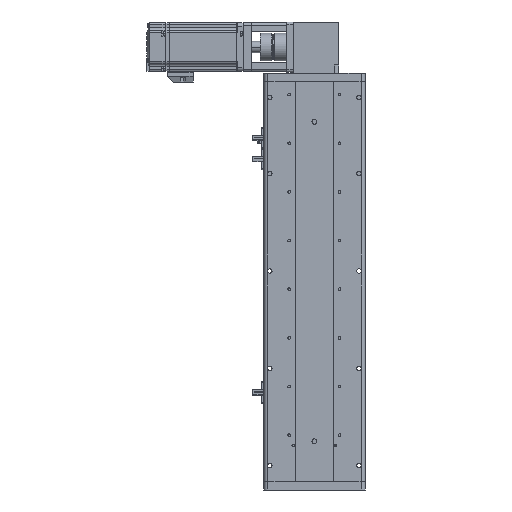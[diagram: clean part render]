
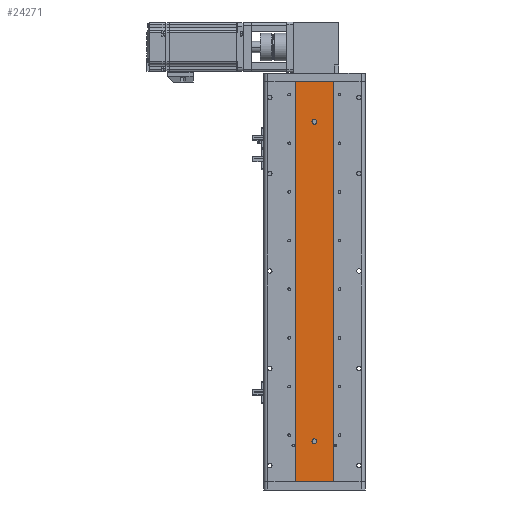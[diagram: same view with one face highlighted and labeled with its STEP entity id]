
A CAD part, front view. The second image highlights one B-rep face of the part: STEP entity #24271.
In plain terms, the highlighted planar face has unit normal (0, -1, 0).
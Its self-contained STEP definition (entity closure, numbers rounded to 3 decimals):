
#26 = EDGE_CURVE ( 'NONE', #29753, #4465, #30320, .T. ) ;
#994 = CARTESIAN_POINT ( 'NONE',  ( 23., 1., 247. ) ) ;
#1215 = CARTESIAN_POINT ( 'NONE',  ( 23., 1., 247.001 ) ) ;
#1623 = VERTEX_POINT ( 'NONE', #21208 ) ;
#1716 = DIRECTION ( 'NONE',  ( 0., 0., -1. ) ) ;
#3495 = EDGE_CURVE ( 'NONE', #31352, #4465, #35912, .T. ) ;
#3756 = AXIS2_PLACEMENT_3D ( 'NONE', #24599, #56454, #29142 ) ;
#4236 = PLANE ( 'NONE',  #13510 ) ;
#4465 = VERTEX_POINT ( 'NONE', #9812 ) ;
#4565 = CARTESIAN_POINT ( 'NONE',  ( -23., 1., 247.001 ) ) ;
#5600 = CARTESIAN_POINT ( 'NONE',  ( 0., 1., -200. ) ) ;
#5786 = VECTOR ( 'NONE', #37231, 1000. ) ;
#5866 = FACE_BOUND ( 'NONE', #34288, .T. ) ;
#6525 = LINE ( 'NONE', #4565, #27732 ) ;
#7056 = ORIENTED_EDGE ( 'NONE', *, *, #20576, .F. ) ;
#7707 = VECTOR ( 'NONE', #19228, 1000. ) ;
#9812 = CARTESIAN_POINT ( 'NONE',  ( 23., 1., -247. ) ) ;
#9901 = CARTESIAN_POINT ( 'NONE',  ( 23., 1., -247. ) ) ;
#11560 = CIRCLE ( 'NONE', #28257, 3. ) ;
#12290 = CARTESIAN_POINT ( 'NONE',  ( 23., 1., 247. ) ) ;
#12748 = EDGE_CURVE ( 'NONE', #27639, #38903, #29081, .T. ) ;
#13510 = AXIS2_PLACEMENT_3D ( 'NONE', #26744, #22208, #35863 ) ;
#14646 = CARTESIAN_POINT ( 'NONE',  ( 0., 1., 197. ) ) ;
#16411 = LINE ( 'NONE', #994, #5786 ) ;
#18089 = EDGE_LOOP ( 'NONE', ( #56355, #32174, #26024, #7056 ) ) ;
#19207 = DIRECTION ( 'NONE',  ( 0., 0., -1. ) ) ;
#19228 = DIRECTION ( 'NONE',  ( 0., 0., -1. ) ) ;
#20488 = EDGE_CURVE ( 'NONE', #1623, #31352, #6525, .T. ) ;
#20576 = EDGE_CURVE ( 'NONE', #1623, #29753, #16411, .T. ) ;
#21068 = VECTOR ( 'NONE', #41683, 1000. ) ;
#21208 = CARTESIAN_POINT ( 'NONE',  ( -23., 1., 247. ) ) ;
#22099 = DIRECTION ( 'NONE',  ( 0., -1., 0. ) ) ;
#22208 = DIRECTION ( 'NONE',  ( 0., 1., 0. ) ) ;
#24140 = CARTESIAN_POINT ( 'NONE',  ( 0., 1., -194. ) ) ;
#24190 = VERTEX_POINT ( 'NONE', #48890 ) ;
#24271 = ADVANCED_FACE ( 'NONE', ( #5866, #51335, #43515 ), #4236, .F. ) ;
#24599 = CARTESIAN_POINT ( 'NONE',  ( 0., 1., 197. ) ) ;
#26024 = ORIENTED_EDGE ( 'NONE', *, *, #26, .F. ) ;
#26216 = ORIENTED_EDGE ( 'NONE', *, *, #35260, .F. ) ;
#26744 = CARTESIAN_POINT ( 'NONE',  ( 23., 1., 247.001 ) ) ;
#27639 = VERTEX_POINT ( 'NONE', #5600 ) ;
#27732 = VECTOR ( 'NONE', #54582, 1000. ) ;
#28257 = AXIS2_PLACEMENT_3D ( 'NONE', #56114, #28797, #1716 ) ;
#28797 = DIRECTION ( 'NONE',  ( 0., -1., 0. ) ) ;
#29081 = CIRCLE ( 'NONE', #46122, 3. ) ;
#29142 = DIRECTION ( 'NONE',  ( 0., 0., -1. ) ) ;
#29753 = VERTEX_POINT ( 'NONE', #12290 ) ;
#30320 = LINE ( 'NONE', #1215, #7707 ) ;
#31352 = VERTEX_POINT ( 'NONE', #31860 ) ;
#31860 = CARTESIAN_POINT ( 'NONE',  ( -23., 1., -247. ) ) ;
#32174 = ORIENTED_EDGE ( 'NONE', *, *, #3495, .T. ) ;
#34288 = EDGE_LOOP ( 'NONE', ( #56930, #37349 ) ) ;
#35260 = EDGE_CURVE ( 'NONE', #38903, #27639, #11560, .T. ) ;
#35863 = DIRECTION ( 'NONE',  ( 0., 0., 1. ) ) ;
#35912 = LINE ( 'NONE', #9901, #21068 ) ;
#37231 = DIRECTION ( 'NONE',  ( 1., 0., 0. ) ) ;
#37263 = ORIENTED_EDGE ( 'NONE', *, *, #12748, .F. ) ;
#37313 = EDGE_CURVE ( 'NONE', #24190, #58067, #56810, .T. ) ;
#37349 = ORIENTED_EDGE ( 'NONE', *, *, #53544, .F. ) ;
#38903 = VERTEX_POINT ( 'NONE', #24140 ) ;
#41245 = AXIS2_PLACEMENT_3D ( 'NONE', #14646, #46473, #19207 ) ;
#41683 = DIRECTION ( 'NONE',  ( 1., 0., 0. ) ) ;
#41803 = CARTESIAN_POINT ( 'NONE',  ( 0., 1., 200. ) ) ;
#43515 = FACE_OUTER_BOUND ( 'NONE', #18089, .T. ) ;
#44779 = EDGE_LOOP ( 'NONE', ( #37263, #26216 ) ) ;
#45151 = CIRCLE ( 'NONE', #41245, 3. ) ;
#46122 = AXIS2_PLACEMENT_3D ( 'NONE', #49347, #22099, #53917 ) ;
#46473 = DIRECTION ( 'NONE',  ( 0., -1., 0. ) ) ;
#48890 = CARTESIAN_POINT ( 'NONE',  ( 0., 1., 194. ) ) ;
#49347 = CARTESIAN_POINT ( 'NONE',  ( 0., 1., -197. ) ) ;
#51335 = FACE_BOUND ( 'NONE', #44779, .T. ) ;
#53544 = EDGE_CURVE ( 'NONE', #58067, #24190, #45151, .T. ) ;
#53917 = DIRECTION ( 'NONE',  ( 0., 0., -1. ) ) ;
#54582 = DIRECTION ( 'NONE',  ( 0., 0., -1. ) ) ;
#56114 = CARTESIAN_POINT ( 'NONE',  ( 0., 1., -197. ) ) ;
#56355 = ORIENTED_EDGE ( 'NONE', *, *, #20488, .T. ) ;
#56454 = DIRECTION ( 'NONE',  ( 0., -1., 0. ) ) ;
#56810 = CIRCLE ( 'NONE', #3756, 3. ) ;
#56930 = ORIENTED_EDGE ( 'NONE', *, *, #37313, .F. ) ;
#58067 = VERTEX_POINT ( 'NONE', #41803 ) ;
